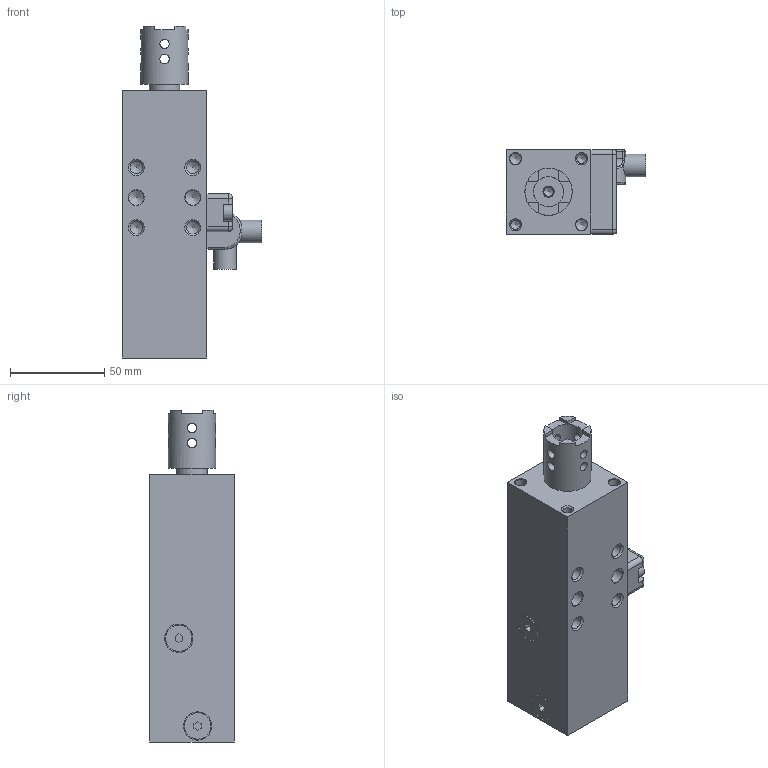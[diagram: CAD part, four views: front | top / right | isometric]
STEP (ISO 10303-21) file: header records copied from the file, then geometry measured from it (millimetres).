
FILE_DESCRIPTION(/* description */ (''),/* implementation_level */ '2;1');
FILE_NAME(/* name */ 'C:\PNX_VAULTFOLDER\Area Tecnica\Disegni\VARIE-3D\Componenti\7000\RP32######\RA32E20G1.stp',/* time_stamp */ '2018-10-30T11:32:04+01:00',/* author */ ('donadda1'),/* organization */ (''),/* preprocessor_version */ 'ST-DEVELOPER v17',/* originating_system */ 'Autodesk Inventor 2019',/* authorisation */ '');
FILE_SCHEMA (('AUTOMOTIVE_DESIGN { 1 0 10303 214 3 1 1 }'));
Length unit declared in the file: millimetre
Products named in the file (5): RA32E20G1; CENTRATORE_32-0020_DE; RA_ASTA_1-0040; ES001; ES001_CONN_90°
Assembly tree (4 placements, depth 2):
  RA32E20G1
    CENTRATORE_32-0020_DE
    RA_ASTA_1-0040
    ES001
    ES001_CONN_90°
Bounding box: 74.1 x 45 x 176 mm (x, y, z)
Volume: 321399.8 mm3; surface area: 61452.1 mm2
Topology: 4 solids, 4 shells, 275 faces, 729 edges, 492 vertices
Faces by surface type: plane 127, cylinder 91, cone 38, bspline 9, torus 8, sphere 2
Full cylindrical faces by diameter (mm): 4.134 x2, 4.917 x7, 5 x8, 5.489 x4, 6 x2, 6.647 x8, 8 x4, 8.5 x4, 8.566 x2, 12 x2, 14 x2, 15 x4, 16 x3, 25 x1
Entity records: 9477 total; most frequent: CARTESIAN_POINT 2307, DIRECTION 1495, ORIENTED_EDGE 1420, EDGE_CURVE 710, AXIS2_PLACEMENT_3D 566, VERTEX_POINT 492, LINE 363, VECTOR 363
